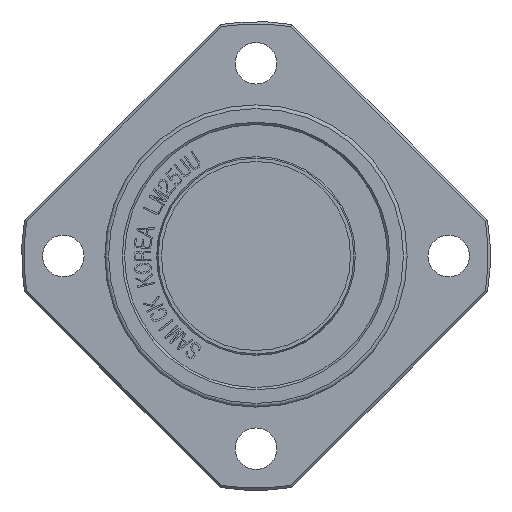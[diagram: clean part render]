
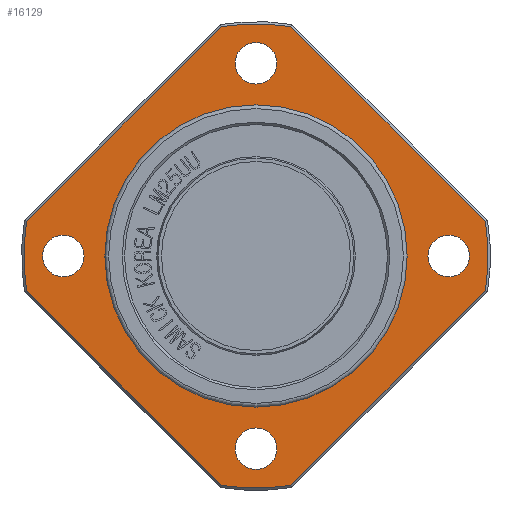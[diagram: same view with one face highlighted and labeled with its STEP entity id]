
A CAD part, front view. The second image highlights one B-rep face of the part: STEP entity #16129.
In plain terms, the highlighted planar face has unit normal (0, -1, 0).
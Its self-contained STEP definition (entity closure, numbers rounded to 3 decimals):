
#2283=FACE_BOUND('',#3334,.T.);
#2284=FACE_BOUND('',#3335,.T.);
#2285=FACE_BOUND('',#3336,.T.);
#2286=FACE_BOUND('',#3337,.T.);
#2287=FACE_BOUND('',#3338,.T.);
#2347=CIRCLE('',#17042,30.7);
#2348=CIRCLE('',#17043,30.7);
#2349=CIRCLE('',#17044,30.7);
#2350=CIRCLE('',#17045,30.7);
#2351=CIRCLE('',#17046,20.);
#2352=CIRCLE('',#17047,20.);
#2353=CIRCLE('',#17048,2.75);
#2354=CIRCLE('',#17049,2.75);
#2355=CIRCLE('',#17050,2.75);
#2356=CIRCLE('',#17051,2.75);
#2443=FACE_OUTER_BOUND('',#3333,.T.);
#3333=EDGE_LOOP('',(#10875,#10876,#10877,#10878,#10879,#10880,#10881,#10882));
#3334=EDGE_LOOP('',(#10883,#10884));
#3335=EDGE_LOOP('',(#10885));
#3336=EDGE_LOOP('',(#10886));
#3337=EDGE_LOOP('',(#10887));
#3338=EDGE_LOOP('',(#10888));
#4286=LINE('',#19339,#5474);
#4287=LINE('',#19347,#5475);
#4288=LINE('',#19351,#5476);
#4289=LINE('',#19355,#5477);
#5474=VECTOR('',#17414,10.);
#5475=VECTOR('',#17419,10.);
#5476=VECTOR('',#17422,10.);
#5477=VECTOR('',#17425,10.);
#6681=VERTEX_POINT('',#19334);
#6682=VERTEX_POINT('',#19338);
#6683=VERTEX_POINT('',#19344);
#6684=VERTEX_POINT('',#19346);
#6685=VERTEX_POINT('',#19348);
#6686=VERTEX_POINT('',#19350);
#6687=VERTEX_POINT('',#19352);
#6688=VERTEX_POINT('',#19354);
#6689=VERTEX_POINT('',#19357);
#6690=VERTEX_POINT('',#19358);
#6691=VERTEX_POINT('',#19361);
#6692=VERTEX_POINT('',#19363);
#6693=VERTEX_POINT('',#19365);
#6694=VERTEX_POINT('',#19367);
#8360=EDGE_CURVE('',#6681,#6682,#4286,.T.);
#8362=EDGE_CURVE('',#6681,#6683,#2347,.T.);
#8363=EDGE_CURVE('',#6684,#6683,#4287,.T.);
#8364=EDGE_CURVE('',#6684,#6685,#2348,.T.);
#8365=EDGE_CURVE('',#6686,#6685,#4288,.T.);
#8366=EDGE_CURVE('',#6686,#6687,#2349,.T.);
#8367=EDGE_CURVE('',#6688,#6687,#4289,.T.);
#8368=EDGE_CURVE('',#6688,#6682,#2350,.T.);
#8369=EDGE_CURVE('',#6689,#6690,#2351,.T.);
#8370=EDGE_CURVE('',#6690,#6689,#2352,.T.);
#8371=EDGE_CURVE('',#6691,#6691,#2353,.T.);
#8372=EDGE_CURVE('',#6692,#6692,#2354,.T.);
#8373=EDGE_CURVE('',#6693,#6693,#2355,.T.);
#8374=EDGE_CURVE('',#6694,#6694,#2356,.T.);
#10875=ORIENTED_EDGE('',*,*,#8360,.F.);
#10876=ORIENTED_EDGE('',*,*,#8362,.T.);
#10877=ORIENTED_EDGE('',*,*,#8363,.F.);
#10878=ORIENTED_EDGE('',*,*,#8364,.T.);
#10879=ORIENTED_EDGE('',*,*,#8365,.F.);
#10880=ORIENTED_EDGE('',*,*,#8366,.T.);
#10881=ORIENTED_EDGE('',*,*,#8367,.F.);
#10882=ORIENTED_EDGE('',*,*,#8368,.T.);
#10883=ORIENTED_EDGE('',*,*,#8369,.F.);
#10884=ORIENTED_EDGE('',*,*,#8370,.F.);
#10885=ORIENTED_EDGE('',*,*,#8371,.T.);
#10886=ORIENTED_EDGE('',*,*,#8372,.T.);
#10887=ORIENTED_EDGE('',*,*,#8373,.T.);
#10888=ORIENTED_EDGE('',*,*,#8374,.T.);
#15882=PLANE('',#17041);
#16129=ADVANCED_FACE('',(#2443,#2283,#2284,#2285,#2286,#2287),#15882,.T.);
#17041=AXIS2_PLACEMENT_3D('',#19343,#17415,#17416);
#17042=AXIS2_PLACEMENT_3D('',#19345,#17417,#17418);
#17043=AXIS2_PLACEMENT_3D('',#19349,#17420,#17421);
#17044=AXIS2_PLACEMENT_3D('',#19353,#17423,#17424);
#17045=AXIS2_PLACEMENT_3D('',#19356,#17426,#17427);
#17046=AXIS2_PLACEMENT_3D('',#19359,#17428,#17429);
#17047=AXIS2_PLACEMENT_3D('',#19360,#17430,#17431);
#17048=AXIS2_PLACEMENT_3D('',#19362,#17432,#17433);
#17049=AXIS2_PLACEMENT_3D('',#19364,#17434,#17435);
#17050=AXIS2_PLACEMENT_3D('',#19366,#17436,#17437);
#17051=AXIS2_PLACEMENT_3D('',#19368,#17438,#17439);
#17414=DIRECTION('',(-0.707,0.,-0.707));
#17415=DIRECTION('center_axis',(0.,-1.,0.));
#17416=DIRECTION('ref_axis',(0.,0.,-1.));
#17417=DIRECTION('center_axis',(0.,-1.,0.));
#17418=DIRECTION('ref_axis',(1.,0.,0.));
#17419=DIRECTION('',(0.707,0.,-0.707));
#17420=DIRECTION('center_axis',(0.,-1.,0.));
#17421=DIRECTION('ref_axis',(1.,0.,0.));
#17422=DIRECTION('',(0.707,0.,0.707));
#17423=DIRECTION('center_axis',(0.,-1.,0.));
#17424=DIRECTION('ref_axis',(1.,0.,0.));
#17425=DIRECTION('',(-0.707,0.,0.707));
#17426=DIRECTION('center_axis',(0.,-1.,0.));
#17427=DIRECTION('ref_axis',(1.,0.,0.));
#17428=DIRECTION('center_axis',(0.,-1.,0.));
#17429=DIRECTION('ref_axis',(1.,0.,0.));
#17430=DIRECTION('center_axis',(0.,-1.,0.));
#17431=DIRECTION('ref_axis',(1.,0.,0.));
#17432=DIRECTION('center_axis',(0.,1.,0.));
#17433=DIRECTION('ref_axis',(1.,0.,0.));
#17434=DIRECTION('center_axis',(0.,1.,0.));
#17435=DIRECTION('ref_axis',(0.,0.,
-1.));
#17436=DIRECTION('center_axis',(0.,1.,0.));
#17437=DIRECTION('ref_axis',(-1.,0.,0.));
#17438=DIRECTION('center_axis',(0.,1.,0.));
#17439=DIRECTION('ref_axis',(0.,0.,
1.));
#19334=CARTESIAN_POINT('',(30.357,-4.,-4.574));
#19338=CARTESIAN_POINT('',(4.574,-4.,-30.357));
#19339=CARTESIAN_POINT('',(15.985,-4.,-18.946));
#19343=CARTESIAN_POINT('Origin',(20.,-4.,0.));
#19344=CARTESIAN_POINT('',(30.357,-4.,4.574));
#19345=CARTESIAN_POINT('Origin',(0.,-4.,0.));
#19346=CARTESIAN_POINT('',(4.574,-4.,30.357));
#19347=CARTESIAN_POINT('',(28.946,-4.,5.985));
#19348=CARTESIAN_POINT('',(-4.574,-4.,30.357));
#19349=CARTESIAN_POINT('Origin',(0.,-4.,0.));
#19350=CARTESIAN_POINT('',(-30.357,-4.,4.574));
#19351=CARTESIAN_POINT('',(-5.985,-4.,28.946));
#19352=CARTESIAN_POINT('',(-30.357,-4.,-4.574));
#19353=CARTESIAN_POINT('Origin',(0.,-4.,0.));
#19354=CARTESIAN_POINT('',(-4.574,-4.,-30.357));
#19355=CARTESIAN_POINT('',(-18.946,-4.,-15.985));
#19356=CARTESIAN_POINT('Origin',(0.,-4.,0.));
#19357=CARTESIAN_POINT('',(20.,-4.,0.));
#19358=CARTESIAN_POINT('',(-20.,-4.,0.));
#19359=CARTESIAN_POINT('Origin',(0.,-4.,0.));
#19360=CARTESIAN_POINT('Origin',(0.,-4.,0.));
#19361=CARTESIAN_POINT('',(22.75,-4.,0.));
#19362=CARTESIAN_POINT('Origin',(25.5,-4.,0.));
#19363=CARTESIAN_POINT('',(0.,-4.,-22.75));
#19364=CARTESIAN_POINT('Origin',(0.,-4.,
-25.5));
#19365=CARTESIAN_POINT('',(-22.75,-4.,0.));
#19366=CARTESIAN_POINT('Origin',(-25.5,-4.,0.));
#19367=CARTESIAN_POINT('',(0.,-4.,22.75));
#19368=CARTESIAN_POINT('Origin',(0.,-4.,
25.5));
